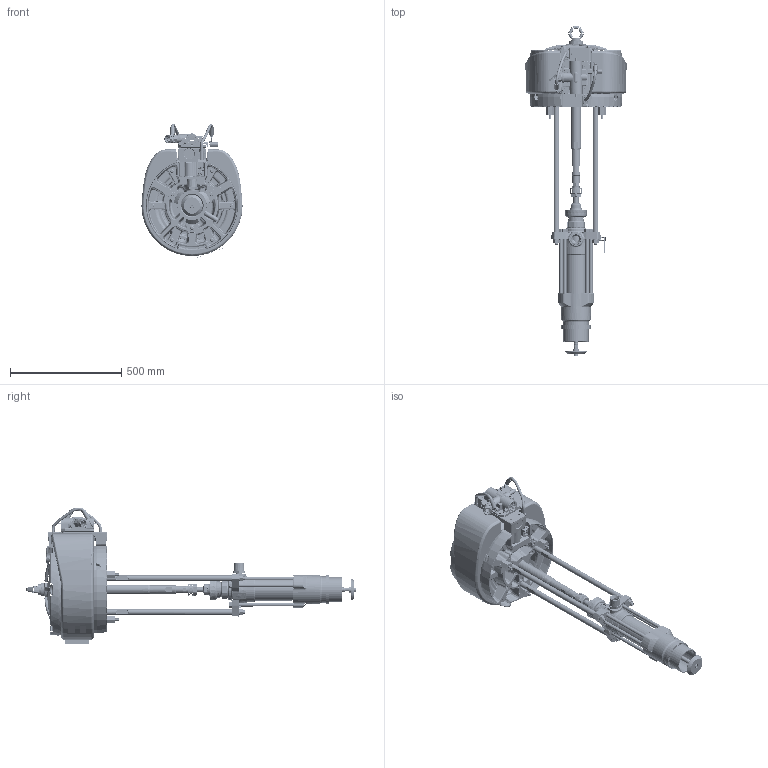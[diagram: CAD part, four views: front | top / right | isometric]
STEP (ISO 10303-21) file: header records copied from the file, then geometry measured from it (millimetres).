
FILE_DESCRIPTION((''),'2;1');
FILE_NAME('P42LCS-EN-E_PRT','2020-05-28T13:58:11',('qusrh3'),(''),'CREO PARAMETRIC BY PTC INC, 2019030','CREO PARAMETRIC BY PTC INC, 2019030','');
FILE_SCHEMA(('CONFIG_CONTROL_DESIGN'));
Products named in the file (1): P42LCS-EN-E_PRT
Bounding box: 454.59 x 1493.56 x 615.56 mm (x, y, z)
Surface area: 3767904.5 mm2 (no closed solid volume)
Topology: 0 solids, 660 shells, 4186 faces, 17111 edges, 13036 vertices
Faces by surface type: plane 1214, cylinder 898, bspline 796, cone 682, torus 588, extrusion 6, sphere 2
Entity records: 243574 total; most frequent: CARTESIAN_POINT 120531, ORIENTED_EDGE 23376, DIRECTION 22137, EDGE_CURVE 17108, VERTEX_POINT 13036, AXIS2_PLACEMENT_3D 8825, B_SPLINE_CURVE_WITH_KNOTS 7192, CIRCLE 5439
